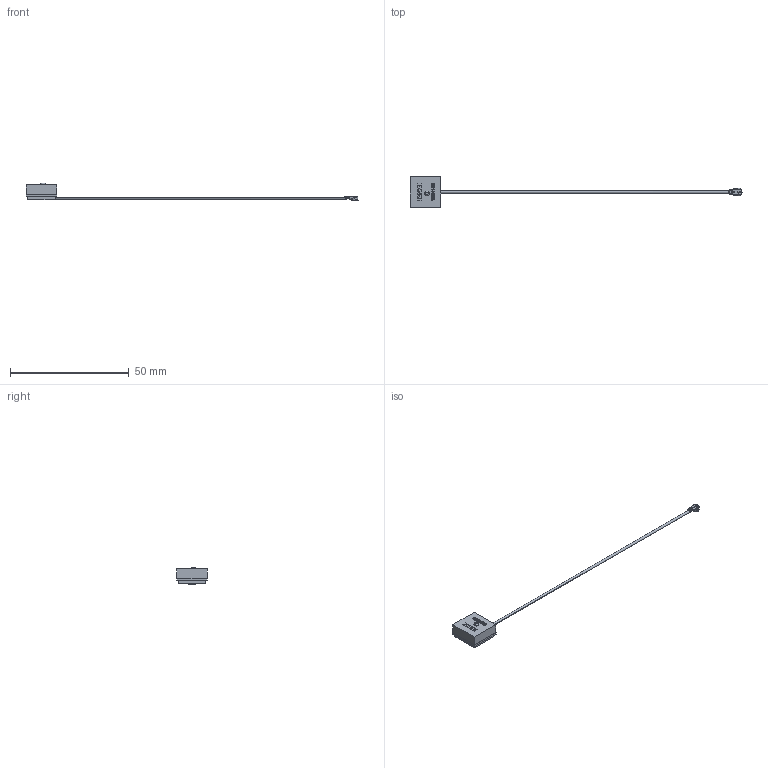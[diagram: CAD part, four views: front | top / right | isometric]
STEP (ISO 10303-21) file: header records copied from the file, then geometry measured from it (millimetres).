
FILE_DESCRIPTION((''),'2;1');
FILE_NAME('1004138_ASM','2024-08-13T14:26:29',('mrodriguez'),(''),'CREO PARAMETRIC BY PTC INC, 2024153','CREO PARAMETRIC BY PTC INC, 2024153','');
FILE_SCHEMA(('AUTOMOTIVE_DESIGN { 1 0 10303 214 1 1 1 1 }'));
Length unit declared in the file: millimetre
Products named in the file (3): 1004138; 1004138_COAX; 1004138_ASM
Assembly tree (2 placements, depth 2):
  1004138_ASM
    1004138
    1004138_COAX
Bounding box: 139.59 x 13 x 7.45 mm (x, y, z)
Surface area: 1191.2 mm2 (no closed solid volume)
Topology: 0 solids, 14 shells, 638 faces, 1723 edges, 1123 vertices
Faces by surface type: plane 341, bspline 128, cylinder 107, extrusion 27, cone 22, torus 11, sphere 2
Entity records: 32816 total; most frequent: CARTESIAN_POINT 10090, ORIENTED_EDGE 3438, DIRECTION 2520, PRESENTATION_STYLE_ASSIGNMENT 1928, STYLED_ITEM 1723, CURVE_STYLE 1719, EDGE_CURVE 1719, VERTEX_POINT 1123
